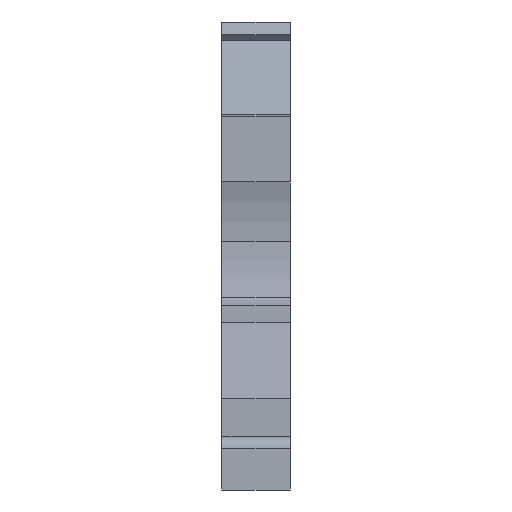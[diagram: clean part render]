
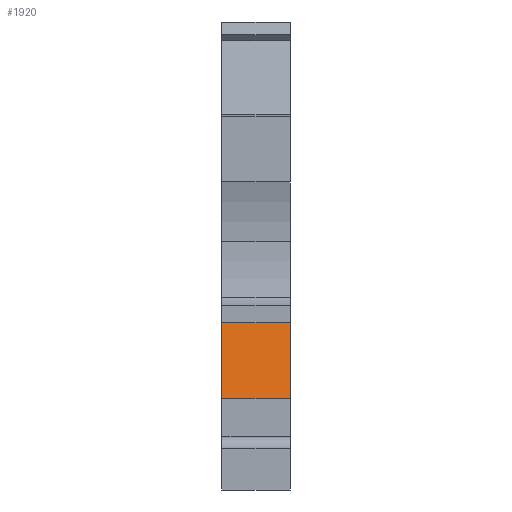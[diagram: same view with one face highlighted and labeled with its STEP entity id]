
A CAD part, front view. The second image highlights one B-rep face of the part: STEP entity #1920.
In plain terms, the highlighted planar face has unit normal (0, -0.985, 0.174).
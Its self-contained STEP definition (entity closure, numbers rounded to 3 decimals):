
#42=CARTESIAN_POINT('',(-0.,3.6,6.862));
#43=VERTEX_POINT('',#42);
#49=CARTESIAN_POINT('',(-0.,4.612,12.6));
#50=VERTEX_POINT('',#49);
#51=CARTESIAN_POINT('',(-0.,4.612,12.6));
#52=CARTESIAN_POINT('',(-0.,3.6,6.862));
#53=B_SPLINE_CURVE_WITH_KNOTS('',1,(#51,#52),.UNSPECIFIED.,.F.,.F.,(2,2),(0.,5.827),.UNSPECIFIED.);
#54=EDGE_CURVE('',#50,#43,#53,.T.);
#1808=CARTESIAN_POINT('',(5.15,4.612,12.6));
#1809=VERTEX_POINT('',#1808);
#1816=CARTESIAN_POINT('',(5.15,3.6,6.862));
#1817=VERTEX_POINT('',#1816);
#1818=CARTESIAN_POINT('',(5.15,3.6,6.862));
#1819=CARTESIAN_POINT('',(5.15,4.612,12.6));
#1820=B_SPLINE_CURVE_WITH_KNOTS('',1,(#1818,#1819),.UNSPECIFIED.,.F.,.F.,(2,2),(0.,5.827),.UNSPECIFIED.);
#1821=EDGE_CURVE('',#1817,#1809,#1820,.T.);
#1900=CARTESIAN_POINT('',(5.15,3.615,6.948));
#1901=DIRECTION('',(0.,0.985,-0.174));
#1902=DIRECTION('',(-1.,0.,-0.));
#1903=AXIS2_PLACEMENT_3D('',#1900,#1901,#1902);
#1904=PLANE('',#1903);
#1905=CARTESIAN_POINT('',(5.15,4.612,12.6));
#1906=DIRECTION('',(-1.,0.,-0.));
#1907=VECTOR('',#1906,5.15);
#1908=LINE('',#1905,#1907);
#1909=EDGE_CURVE('',#1809,#50,#1908,.T.);
#1910=ORIENTED_EDGE('',*,*,#1909,.T.);
#1911=ORIENTED_EDGE('',*,*,#54,.T.);
#1912=CARTESIAN_POINT('',(-0.,3.6,6.862));
#1913=CARTESIAN_POINT('',(5.15,3.6,6.862));
#1914=B_SPLINE_CURVE_WITH_KNOTS('',1,(#1912,#1913),.UNSPECIFIED.,.F.,.F.,(2,2),(0.,5.15),.UNSPECIFIED.);
#1915=EDGE_CURVE('',#43,#1817,#1914,.T.);
#1916=ORIENTED_EDGE('',*,*,#1915,.T.);
#1917=ORIENTED_EDGE('',*,*,#1821,.T.);
#1918=EDGE_LOOP('',(#1910,#1911,#1916,#1917));
#1919=FACE_BOUND('',#1918,.T.);
#1920=ADVANCED_FACE('',(#1919),#1904,.F.);
